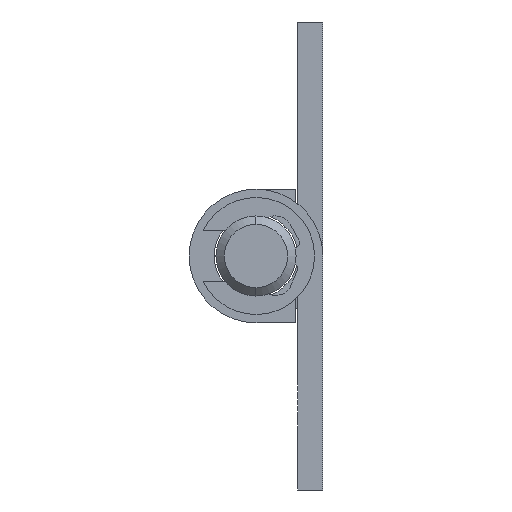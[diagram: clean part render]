
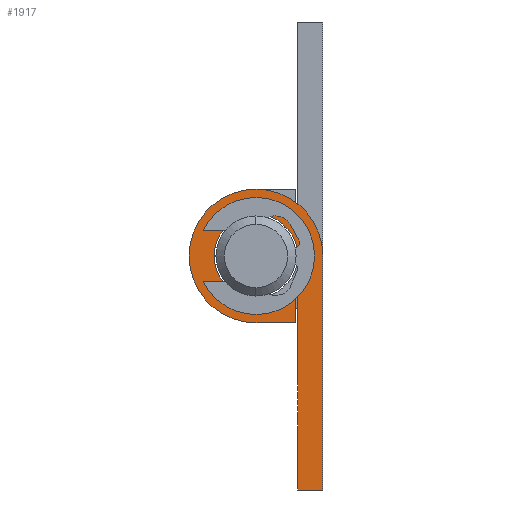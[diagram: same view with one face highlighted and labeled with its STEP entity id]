
A CAD part, left-side view. The second image highlights one B-rep face of the part: STEP entity #1917.
In plain terms, the highlighted planar face has unit normal (-1, 0, 0).
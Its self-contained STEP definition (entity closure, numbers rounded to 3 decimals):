
#136 = EDGE_CURVE ( 'NONE', #4392, #762, #2523, .T. ) ;
#151 = ORIENTED_EDGE ( 'NONE', *, *, #3826, .T. ) ;
#252 = VECTOR ( 'NONE', #1652, 1000. ) ;
#304 = VECTOR ( 'NONE', #2219, 1000. ) ;
#335 = CARTESIAN_POINT ( 'NONE',  ( -34., -2.383, -4. ) ) ;
#398 = DIRECTION ( 'NONE',  ( 0., 0., -1. ) ) ;
#409 = DIRECTION ( 'NONE',  ( 0., 0., -1. ) ) ;
#519 = CARTESIAN_POINT ( 'NONE',  ( -34., -4., 0. ) ) ;
#535 = CARTESIAN_POINT ( 'NONE',  ( -34., -2.5, -14. ) ) ;
#563 = DIRECTION ( 'NONE',  ( 0., 0., -1. ) ) ;
#567 = ORIENTED_EDGE ( 'NONE', *, *, #1792, .F. ) ;
#576 = VERTEX_POINT ( 'NONE', #2184 ) ;
#749 = PLANE ( 'NONE',  #1238 ) ;
#762 = VERTEX_POINT ( 'NONE', #335 ) ;
#788 = DIRECTION ( 'NONE',  ( 0., -1., 0. ) ) ;
#813 = VECTOR ( 'NONE', #1778, 1000. ) ;
#862 = ORIENTED_EDGE ( 'NONE', *, *, #136, .F. ) ;
#878 = CARTESIAN_POINT ( 'NONE',  ( -34., 0., 4. ) ) ;
#922 = VERTEX_POINT ( 'NONE', #2047 ) ;
#929 = EDGE_CURVE ( 'NONE', #2446, #762, #2319, .T. ) ;
#1083 = CARTESIAN_POINT ( 'NONE',  ( -34., 0., 0. ) ) ;
#1211 = CARTESIAN_POINT ( 'NONE',  ( -34., -2.5, 0. ) ) ;
#1224 = VERTEX_POINT ( 'NONE', #535 ) ;
#1227 = CARTESIAN_POINT ( 'NONE',  ( -34., -2.383, -2.5 ) ) ;
#1232 = DIRECTION ( 'NONE',  ( 1., 0., 0. ) ) ;
#1238 = AXIS2_PLACEMENT_3D ( 'NONE', #1083, #3770, #2728 ) ;
#1261 = EDGE_LOOP ( 'NONE', ( #3889, #4233, #4229, #151, #3082, #3062, #567, #2173, #862, #1886 ) ) ;
#1314 = AXIS2_PLACEMENT_3D ( 'NONE', #3179, #3848, #409 ) ;
#1473 = AXIS2_PLACEMENT_3D ( 'NONE', #3013, #1232, #2296 ) ;
#1555 = VERTEX_POINT ( 'NONE', #519 ) ;
#1652 = DIRECTION ( 'NONE',  ( 0., 0., -1. ) ) ;
#1710 = CARTESIAN_POINT ( 'NONE',  ( -34., 0., -2.5 ) ) ;
#1778 = DIRECTION ( 'NONE',  ( 0., -1., 0. ) ) ;
#1792 = EDGE_CURVE ( 'NONE', #2446, #3370, #1830, .T. ) ;
#1815 = VERTEX_POINT ( 'NONE', #1211 ) ;
#1817 = DIRECTION ( 'NONE',  ( 0., 0., -1. ) ) ;
#1830 = CIRCLE ( 'NONE', #1314, 4. ) ;
#1843 = AXIS2_PLACEMENT_3D ( 'NONE', #3537, #2771, #1817 ) ;
#1886 = ORIENTED_EDGE ( 'NONE', *, *, #1959, .F. ) ;
#1917 = ADVANCED_FACE ( 'NONE', ( #3099 ), #749, .T. ) ;
#1959 = EDGE_CURVE ( 'NONE', #4110, #4392, #2796, .T. ) ;
#1966 = EDGE_CURVE ( 'NONE', #1555, #576, #4149, .T. ) ;
#2047 = CARTESIAN_POINT ( 'NONE',  ( -34., 0., 2.5 ) ) ;
#2072 = CIRCLE ( 'NONE', #1843, 2.5 ) ;
#2173 = ORIENTED_EDGE ( 'NONE', *, *, #929, .T. ) ;
#2184 = CARTESIAN_POINT ( 'NONE',  ( -34., -4., -14. ) ) ;
#2206 = CIRCLE ( 'NONE', #1473, 4. ) ;
#2219 = DIRECTION ( 'NONE',  ( 0., 0., -1. ) ) ;
#2222 = EDGE_CURVE ( 'NONE', #3370, #1555, #2206, .T. ) ;
#2274 = VECTOR ( 'NONE', #3357, 1000. ) ;
#2296 = DIRECTION ( 'NONE',  ( 0., 0., -1. ) ) ;
#2319 = LINE ( 'NONE', #3022, #2274 ) ;
#2387 = LINE ( 'NONE', #2673, #252 ) ;
#2446 = VERTEX_POINT ( 'NONE', #2957 ) ;
#2523 = LINE ( 'NONE', #3170, #304 ) ;
#2603 = LINE ( 'NONE', #3981, #3439 ) ;
#2673 = CARTESIAN_POINT ( 'NONE',  ( -34., -2.5, 0. ) ) ;
#2728 = DIRECTION ( 'NONE',  ( 0., 0., -1. ) ) ;
#2749 = CARTESIAN_POINT ( 'NONE',  ( -34., -4., 0. ) ) ;
#2771 = DIRECTION ( 'NONE',  ( 1., 0., 0. ) ) ;
#2785 = CARTESIAN_POINT ( 'NONE',  ( -34., 0., -2.5 ) ) ;
#2796 = LINE ( 'NONE', #1710, #813 ) ;
#2957 = CARTESIAN_POINT ( 'NONE',  ( -34., 0., -4. ) ) ;
#2999 = CIRCLE ( 'NONE', #3867, 2.5 ) ;
#3013 = CARTESIAN_POINT ( 'NONE',  ( -34., 0., 0. ) ) ;
#3022 = CARTESIAN_POINT ( 'NONE',  ( -34., 0., -4. ) ) ;
#3062 = ORIENTED_EDGE ( 'NONE', *, *, #2222, .F. ) ;
#3082 = ORIENTED_EDGE ( 'NONE', *, *, #1966, .F. ) ;
#3099 = FACE_OUTER_BOUND ( 'NONE', #1261, .T. ) ;
#3133 = EDGE_CURVE ( 'NONE', #4110, #922, #2999, .T. ) ;
#3170 = CARTESIAN_POINT ( 'NONE',  ( -34., -2.383, -2.5 ) ) ;
#3179 = CARTESIAN_POINT ( 'NONE',  ( -34., 0., 0. ) ) ;
#3266 = EDGE_CURVE ( 'NONE', #922, #1815, #2072, .T. ) ;
#3278 = VECTOR ( 'NONE', #398, 1000. ) ;
#3357 = DIRECTION ( 'NONE',  ( 0., -1., 0. ) ) ;
#3370 = VERTEX_POINT ( 'NONE', #878 ) ;
#3381 = DIRECTION ( 'NONE',  ( 1., 0., 0. ) ) ;
#3439 = VECTOR ( 'NONE', #788, 1000. ) ;
#3451 = EDGE_CURVE ( 'NONE', #1815, #1224, #2387, .T. ) ;
#3537 = CARTESIAN_POINT ( 'NONE',  ( -34., 0., 0. ) ) ;
#3770 = DIRECTION ( 'NONE',  ( -1., 0., 0. ) ) ;
#3826 = EDGE_CURVE ( 'NONE', #1224, #576, #2603, .T. ) ;
#3848 = DIRECTION ( 'NONE',  ( 1., 0., 0. ) ) ;
#3867 = AXIS2_PLACEMENT_3D ( 'NONE', #4444, #3381, #563 ) ;
#3889 = ORIENTED_EDGE ( 'NONE', *, *, #3133, .T. ) ;
#3981 = CARTESIAN_POINT ( 'NONE',  ( -34., -2.5, -14. ) ) ;
#4110 = VERTEX_POINT ( 'NONE', #2785 ) ;
#4149 = LINE ( 'NONE', #2749, #3278 ) ;
#4229 = ORIENTED_EDGE ( 'NONE', *, *, #3451, .T. ) ;
#4233 = ORIENTED_EDGE ( 'NONE', *, *, #3266, .T. ) ;
#4392 = VERTEX_POINT ( 'NONE', #1227 ) ;
#4444 = CARTESIAN_POINT ( 'NONE',  ( -34., 0., 0. ) ) ;
